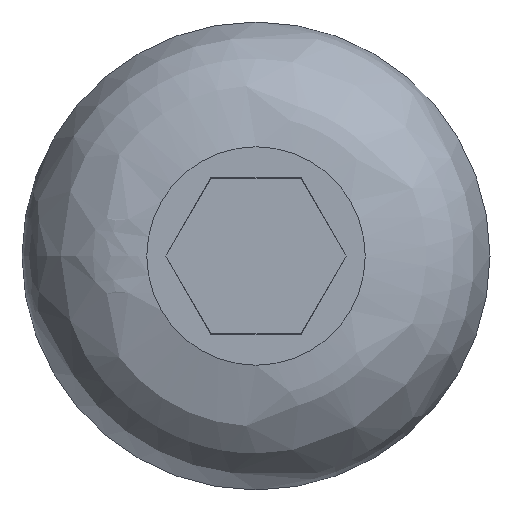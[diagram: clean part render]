
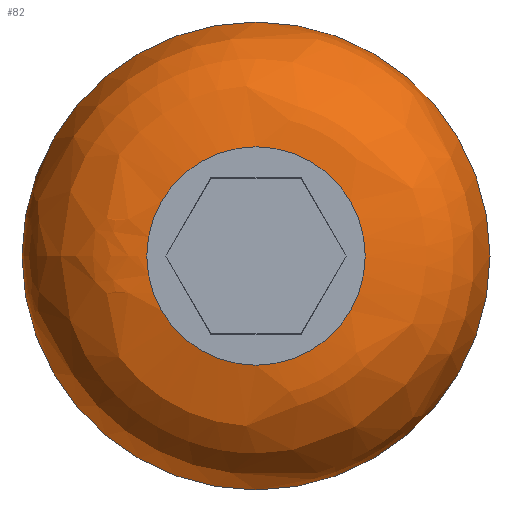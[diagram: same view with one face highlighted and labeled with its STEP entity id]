
A CAD part, left-side view. The second image highlights one B-rep face of the part: STEP entity #82.
In plain terms, the highlighted free-form (B-spline) face has degree [2, 2] with [7, 3] control points.
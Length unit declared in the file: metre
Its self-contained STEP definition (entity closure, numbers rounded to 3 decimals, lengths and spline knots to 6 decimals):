
#82 = ADVANCED_FACE( '', ( #107, #108 ), #109, .T. );
#107 = FACE_OUTER_BOUND( '', #212, .T. );
#108 = FACE_OUTER_BOUND( '', #213, .T. );
#109 = ( B_SPLINE_SURFACE( 2, 2, ( ( #215, #216, #217 ), ( #218, #219, #220 ), ( #221, #222, #223 ), ( #224, #225, #226 ), ( #227, #228, #229 ), ( #230, #231, #232 ), ( #233, #234, #235 ) ), .UNSPECIFIED., .T., .F., .F. )B_SPLINE_SURFACE_WITH_KNOTS( ( 3, 2, 2, 3 ), ( 3, 3 ), ( 0., 2.740289, 5.480579, 8.220868 ), ( 0., 1. ), .UNSPECIFIED. )RATIONAL_B_SPLINE_SURFACE( ( ( 1., 0.707, 1. ), ( 0.5, 0.354, 0.5 ), ( 1., 0.707, 1. ), ( 0.5, 0.354, 0.5 ), ( 1., 0.707, 1. ), ( 0.5, 0.354, 0.5 ), ( 1., 0.707, 1. ) ) )BOUNDED_SURFACE(  )REPRESENTATION_ITEM( '' )GEOMETRIC_REPRESENTATION_ITEM(  )SURFACE(  ) );
#212 = EDGE_LOOP( '', ( #320 ) );
#213 = EDGE_LOOP( '', ( #321 ) );
#215 = CARTESIAN_POINT( '', ( 3.983044, 2.796344, -0.24073 ) );
#216 = CARTESIAN_POINT( '', ( 3.981044, 2.796344, -0.24073 ) );
#217 = CARTESIAN_POINT( '', ( 3.981044, 2.794344, -0.24073 ) );
#218 = CARTESIAN_POINT( '', ( 3.983044, 2.796344, -0.247225 ) );
#219 = CARTESIAN_POINT( '', ( 3.981044, 2.796344, -0.247225 ) );
#220 = CARTESIAN_POINT( '', ( 3.981044, 2.794344, -0.243761 ) );
#221 = CARTESIAN_POINT( '', ( 3.983044, 2.790719, -0.243978 ) );
#222 = CARTESIAN_POINT( '', ( 3.981044, 2.790719, -0.243978 ) );
#223 = CARTESIAN_POINT( '', ( 3.981044, 2.791719, -0.242246 ) );
#224 = CARTESIAN_POINT( '', ( 3.983044, 2.785094, -0.24073 ) );
#225 = CARTESIAN_POINT( '', ( 3.981044, 2.785094, -0.24073 ) );
#226 = CARTESIAN_POINT( '', ( 3.981044, 2.789094, -0.24073 ) );
#227 = CARTESIAN_POINT( '', ( 3.983044, 2.790719, -0.237482 ) );
#228 = CARTESIAN_POINT( '', ( 3.981044, 2.790719, -0.237482 ) );
#229 = CARTESIAN_POINT( '', ( 3.981044, 2.791719, -0.239215 ) );
#230 = CARTESIAN_POINT( '', ( 3.983044, 2.796344, -0.234235 ) );
#231 = CARTESIAN_POINT( '', ( 3.981044, 2.796344, -0.234235 ) );
#232 = CARTESIAN_POINT( '', ( 3.981044, 2.794344, -0.237699 ) );
#233 = CARTESIAN_POINT( '', ( 3.983044, 2.796344, -0.24073 ) );
#234 = CARTESIAN_POINT( '', ( 3.981044, 2.796344, -0.24073 ) );
#235 = CARTESIAN_POINT( '', ( 3.981044, 2.794344, -0.24073 ) );
#320 = ORIENTED_EDGE( '', *, *, #361, .T. );
#321 = ORIENTED_EDGE( '', *, *, #363, .F. );
#361 = EDGE_CURVE( '', #397, #397, #398, .T. );
#363 = EDGE_CURVE( '', #401, #401, #402, .F. );
#397 = VERTEX_POINT( '', #458 );
#398 = CIRCLE( '', #459, 0.00375 );
#401 = VERTEX_POINT( '', #462 );
#402 = CIRCLE( '', #463, 0.00175 );
#458 = CARTESIAN_POINT( '', ( 3.983044, 2.796344, -0.24073 ) );
#459 = AXIS2_PLACEMENT_3D( '', #497, #498, #499 );
#462 = CARTESIAN_POINT( '', ( 3.981044, 2.794344, -0.24073 ) );
#463 = AXIS2_PLACEMENT_3D( '', #503, #504, #505 );
#497 = CARTESIAN_POINT( '', ( 3.983044, 2.792594, -0.24073 ) );
#498 = DIRECTION( '', ( -1., 0., 0. ) );
#499 = DIRECTION( '', ( 0., 0., 1. ) );
#503 = CARTESIAN_POINT( '', ( 3.981044, 2.792594, -0.24073 ) );
#504 = DIRECTION( '', ( 1., 0., 0. ) );
#505 = DIRECTION( '', ( 0., 0., -1. ) );
